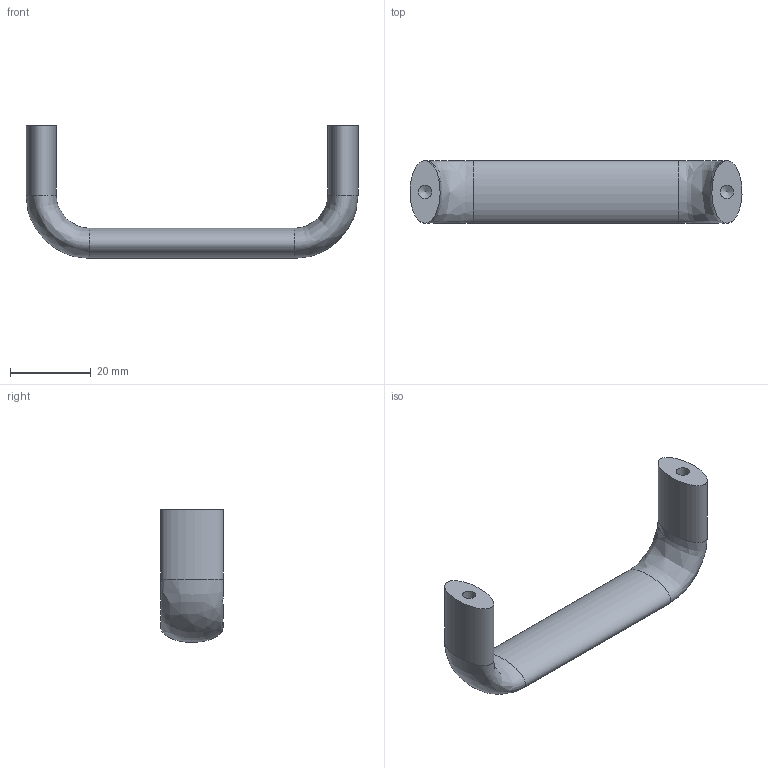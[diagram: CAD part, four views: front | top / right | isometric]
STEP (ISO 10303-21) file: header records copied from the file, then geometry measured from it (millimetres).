
FILE_DESCRIPTION(/* description */ (''),/* implementation_level */ '2;1');
FILE_NAME(/* name */ '\\NAS\db20\A-GA15-75\DR_A-GA15-75.stp',/* time_stamp */ '2017-07-11T08:56:13+09:00',/* author */ ('user'),/* organization */ (''),/* preprocessor_version */ 'ST-DEVELOPER v15.6',/* originating_system */ 'Autodesk Inventor 2015',/* authorisation */ '');
FILE_SCHEMA (('AUTOMOTIVE_DESIGN { 1 0 10303 214 3 1 1 }'));
Length unit declared in the file: millimetre
Products named in the file (1): DR_A-GA15-75
Bounding box: 82.48 x 15.5 x 32.99 mm (x, y, z)
Volume: 11108.3 mm3; surface area: 4937.1 mm2
Topology: 1 solids, 1 shells, 11 faces, 21 edges, 12 vertices
Faces by surface type: bspline 5, cone 2, cylinder 2, plane 2
Full cylindrical faces by diameter (mm): 3.242 x2
Entity records: 345 total; most frequent: CARTESIAN_POINT 143, DIRECTION 38, ORIENTED_EDGE 30, AXIS2_PLACEMENT_3D 19, EDGE_LOOP 15, EDGE_CURVE 15, FACE_OUTER_BOUND 11, ADVANCED_FACE 11
